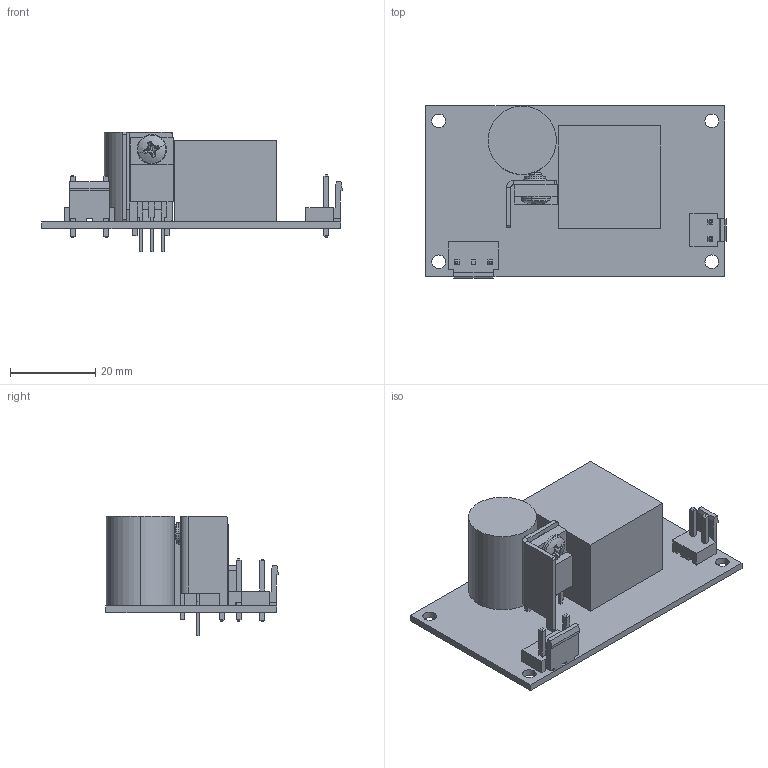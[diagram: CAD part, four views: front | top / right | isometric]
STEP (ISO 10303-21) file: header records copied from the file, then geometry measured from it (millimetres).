
FILE_DESCRIPTION (( 'STEP AP203' ), '1' );
FILE_NAME ('SNP-HF37-A.STEP', '2014-10-22T09:41:23', ( 'mech4' ), ( '' ), 'SwSTEP 2.0', 'SolidWorks 2014', '' );
FILE_SCHEMA (( 'CONFIG_CONTROL_DESIGN' ));
Length unit declared in the file: millimetre
Products named in the file (12): 710-VH02座; PIN-1.14x14.6; 710-VH3; 全710-VH02; 710-B2P3; TO-220; 855-HF38-M; 790-513X; 360-HF39; SNP-HF37-A; 240-J047-L; 800-H38Q
Assembly tree (14 placements, depth 3):
  SNP-HF37-A
    855-HF38-M
    360-HF39
    240-J047-L
    800-H38Q
    全710-VH02
      710-VH02座
      PIN-1.14x14.6  x2
    710-B2P3
      710-VH3
      PIN-1.14x14.6  x2
    TO-220
    790-513X
Bounding box: 70.37 x 40.34 x 28 mm (x, y, z)
Volume: 21268.5 mm3; surface area: 13197.6 mm2
Topology: 12 solids, 12 shells, 262 faces, 670 edges, 438 vertices
Faces by surface type: plane 201, cylinder 29, bspline 24, torus 4, cone 2, sphere 2
Entity records: 9074 total; most frequent: CARTESIAN_POINT 2301, ORIENTED_EDGE 1172, DIRECTION 1026, EDGE_CURVE 586, VECTOR 444, LINE 444, VERTEX_POINT 390, AXIS2_PLACEMENT_3D 291
